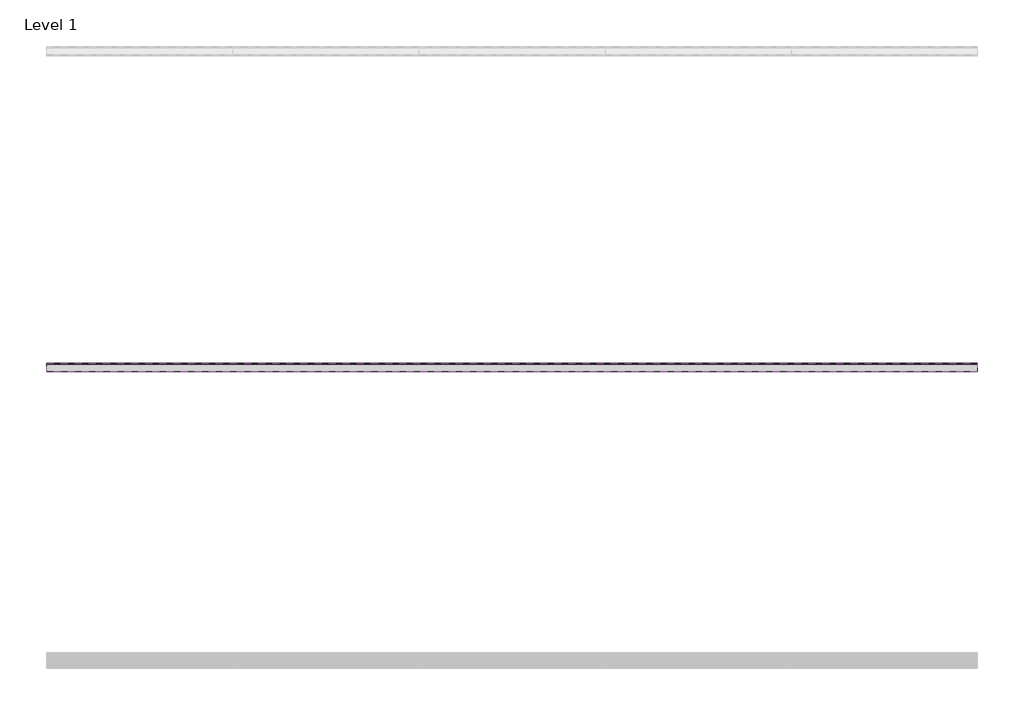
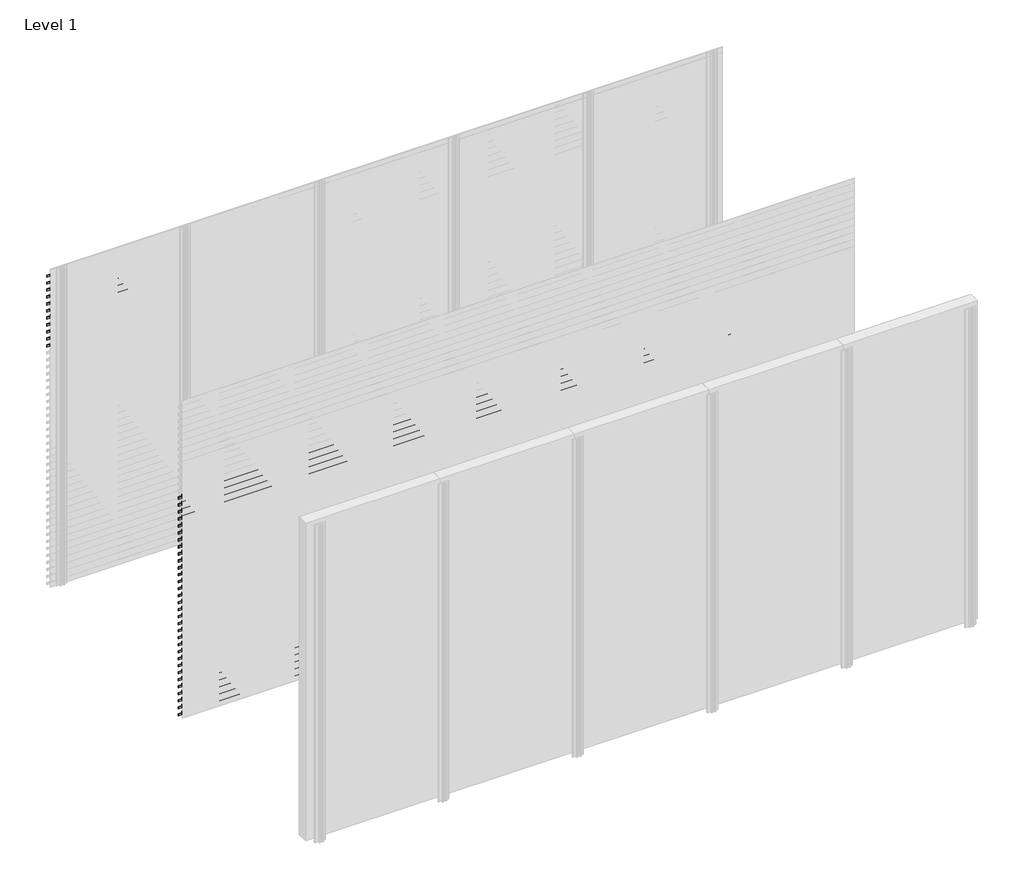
# One storey, part 19 of 540: 43 proxies.
"""IFC4 building model written with IfcOpenShell, lengths in millimetres."""

import ifcopenshell
import ifcopenshell.guid

model = None  # the IFC model being written
_history = None  # IfcOwnerHistory: only IFC2X3 demands one
_inside = {}  # id of a spatial element -> (the spatial element, [elements in it])
_under = {}  # id of a project, library or spatial element -> (it, [spatial elements below it])
_declared = {}  # id of a project -> (the project, [libraries it declares])
_typed = {}  # id of a type object -> (the type object, [elements of that type])
_made_of = {}  # id of a material, layer set ... -> (it, [elements and type objects made of it])


def new_model(schema):
    """Start an empty IFC model of exactly this schema.

    Asked for "IFC4X3", IfcOpenShell would pick the latest addendum, in which some entities
    have other attributes; the version numbers below select the first issue.
    IFC2X3 requires an IfcOwnerHistory on every rooted entity: one is made here for all.
    """
    global model, _history
    if schema == "IFC4X3":
        model = ifcopenshell.file(schema_version=(4, 3, 0, 0))
    else:
        model = ifcopenshell.file(schema=schema)
    _inside.clear()
    _under.clear()
    _declared.clear()
    _typed.clear()
    _made_of.clear()
    _history = None
    if model.schema == "IFC2X3":
        org = make("IfcOrganization", Name="unknown")
        user = make(
            "IfcPersonAndOrganization",
            ThePerson=make("IfcPerson", FamilyName="unknown"),
            TheOrganization=org,
        )
        app = make(
            "IfcApplication",
            ApplicationDeveloper=org,
            Version="unknown",
            ApplicationFullName="unknown",
            ApplicationIdentifier="unknown",
        )
        _history = make(
            "IfcOwnerHistory",
            OwningUser=user,
            OwningApplication=app,
            ChangeAction="ADDED",
            CreationDate=0,
        )
    return model


def make(cls, **values):
    """One entity of the class cls with the attributes given. An attribute that is None is left unset."""
    return model.create_entity(
        cls, **{name: value for name, value in values.items() if value is not None}
    )


def rooted(cls, **values):
    """An entity with a GlobalId (a new one), such as an element, a storey or a relation."""
    return make(cls, GlobalId=ifcopenshell.guid.new(), OwnerHistory=_history, **values)


def si_unit(unit_type, name, prefix=None):
    """IfcSIUnit, for example si_unit("LENGTHUNIT", "METRE", prefix="MILLI")."""
    return make("IfcSIUnit", UnitType=unit_type, Prefix=prefix, Name=name)


def assignment(units):
    """IfcUnitAssignment: the units of a project."""
    return None if units is None else make("IfcUnitAssignment", Units=units)


def point(xyz):
    """IfcCartesianPoint."""
    return None if xyz is None else make("IfcCartesianPoint", Coordinates=xyz)


def direction(xyz):
    """IfcDirection."""
    return None if xyz is None else make("IfcDirection", DirectionRatios=xyz)


def frame(location, z_axis=None, x_axis=None):
    """IfcAxis2Placement3D, a coordinate frame: its origin and axes. An axis left out is left unset."""
    return make(
        "IfcAxis2Placement3D",
        Location=point(location),
        Axis=direction(z_axis),
        RefDirection=direction(x_axis),
    )


def origin():
    """The frame at (0, 0, 0) with its axes left unset."""
    return frame((0.0, 0.0, 0.0))


def place(relative_to, where):
    """IfcLocalPlacement: puts the frame where relative to a parent placement (None: the world)."""
    return make(
        "IfcLocalPlacement", PlacementRelTo=relative_to, RelativePlacement=where
    )


def context(
    kind, dimensions, precision=None, world=None, true_north=None, identifier=None
):
    """IfcGeometricRepresentationContext, for example the 3D "Model" context."""
    return make(
        "IfcGeometricRepresentationContext",
        ContextIdentifier=identifier,
        ContextType=kind,
        CoordinateSpaceDimension=dimensions,
        Precision=precision,
        WorldCoordinateSystem=world,
        TrueNorth=true_north,
    )


def project(units=None, contexts=None):
    """IfcProject with its units and contexts."""
    return rooted(
        "IfcProject",
        Name="project",
        RepresentationContexts=contexts,
        UnitsInContext=assignment(units),
    )


def spatial(cls, under=None, at=None, **own):
    """A site, building, storey or space (cls), placed at a placement, below another one or the project."""
    s = rooted(cls, ObjectPlacement=at, **own)
    if under is not None:
        _under.setdefault(under.id(), (under, []))[1].append(s)
    return s


def faces_of(points, faces, orient=None, outer=None):
    """IfcFace entities. A face is a list of loops; a loop is a list of indices into points, from 0.

    orient and outer hold one flag for each loop. By default every Orientation is true, the
    first loop of a face is its IfcFaceOuterBound and the others are IfcFaceBound.
    """
    made = []
    for i, loops in enumerate(faces):
        bounds = []
        for j, loop in enumerate(loops):
            is_outer = j == 0 if outer is None else outer[i][j]
            bounds.append(
                make(
                    "IfcFaceOuterBound" if is_outer else "IfcFaceBound",
                    Bound=make("IfcPolyLoop", Polygon=[points[k] for k in loop]),
                    Orientation=True if orient is None else orient[i][j],
                )
            )
        made.append(make("IfcFace", Bounds=bounds))
    return made


def faceted_brep(points, faces, orient=None, outer=None, voids=None):
    """IfcFacetedBrep: a solid bounded by flat faces; with voids (closed shells), ...WithVoids."""
    shared = [point(p) for p in points]
    hull = make("IfcClosedShell", CfsFaces=faces_of(shared, faces, orient, outer))
    if voids is None:
        return make("IfcFacetedBrep", Outer=hull)
    return make(
        "IfcFacetedBrepWithVoids",
        Outer=hull,
        Voids=[
            make(cls, CfsFaces=faces_of(shared, fs, o, b)) for cls, fs, o, b in voids
        ],
    )


def shape(context_of_items, identifier, shape_type, items):
    """IfcShapeRepresentation: the items that make up one representation, for example the "Body"."""
    return make(
        "IfcShapeRepresentation",
        ContextOfItems=context_of_items,
        RepresentationIdentifier=identifier,
        RepresentationType=shape_type,
        Items=items,
    )


def made_of(thing, what):
    """Note that an element or type object is made of a material, layer set ...; save() writes the relation."""
    if what is not None:
        _made_of.setdefault(what.id(), (what, []))[1].append(thing)
    return thing


def element(
    cls,
    number,
    at=None,
    inside=None,
    cuts=None,
    type_object=None,
    material=None,
    context=None,
    identifier="Body",
    shape_type=None,
    held_by="IfcProductDefinitionShape",
    body=None,
    shapes=None,
    **own,
):
    """One element of the class cls, such as IfcWall. Its Tag is "e" and its number.

    at: its placement. inside: the storey or other place that contains it. cuts: it is an
    opening in that element (IfcRelVoidsElement). A single representation is given by context,
    identifier, shape_type and body (its items); several are given by shapes. held_by: the class
    of the entity that holds the representations. save() writes the other relations.
    """
    e = rooted(cls, Tag="e%d" % number, ObjectPlacement=at, **own)
    if body is not None:
        shapes = [shape(context, identifier, shape_type, body)]
    if shapes is not None:
        e.Representation = make(held_by, Representations=shapes)
    if inside is not None:
        _inside.setdefault(inside.id(), (inside, []))[1].append(e)
    if cuts is not None:
        rooted(
            "IfcRelVoidsElement", RelatingBuildingElement=cuts, RelatedOpeningElement=e
        )
    if type_object is not None:
        _typed.setdefault(type_object.id(), (type_object, []))[1].append(e)
    return made_of(e, material)


def aggregate(whole, parts):
    """IfcRelAggregates: a whole, such as a stair, and the parts it consists of."""
    return rooted("IfcRelAggregates", RelatingObject=whole, RelatedObjects=parts)


def save(model, path):
    """Write the relations noted so far, then the file.

    IfcRelAggregates (storeys below a building ...), IfcRelContainedInSpatialStructure (elements
    in a storey), IfcRelDefinesByType, IfcRelAssociatesMaterial and IfcRelDeclares: one each for
    every whole, place, type object, material and project.
    """
    for whole, parts in _under.values():
        aggregate(whole, parts)
    for where, things in _inside.values():
        rooted(
            "IfcRelContainedInSpatialStructure",
            RelatedElements=things,
            RelatingStructure=where,
        )
    for kind, things in _typed.values():
        rooted("IfcRelDefinesByType", RelatedObjects=things, RelatingType=kind)
    for what, things in _made_of.values():
        rooted("IfcRelAssociatesMaterial", RelatedObjects=things, RelatingMaterial=what)
    for by, libraries in _declared.values():
        rooted("IfcRelDeclares", RelatingContext=by, RelatedDefinitions=libraries)
    model.write(path)


model = new_model("IFC4")

# Units and contexts
model_context = context("Model", 3, world=origin())
ifc_project = project(units=[si_unit("LENGTHUNIT", "METRE", prefix="MILLI")], contexts=[model_context])

# Site, building, storey
site = spatial("IfcSite", under=ifc_project)
building = spatial("IfcBuilding", under=site)
storey = spatial("IfcBuildingStorey", under=building, Name="Level 1", Elevation=0.0)

# Proxies
placement = place(None, origin())
element("IfcBuildingElementProxy", 1, Name="Wall Sweeps", at=placement, inside=storey, context=model_context, shape_type="Brep", body=[
    faceted_brep([(6466.6208097, 5001.0270068, 2055.5), (6466.6208097, 4947.2770068, 2093.0285629), (6466.6208097, 4947.2770068, 2112.0), (6466.6208097, 4946.0270068, 2112.0), (6466.6208097, 4946.0270068, 2092.3158044), (6466.6208097, 4999.7770068, 2054.7872415), (6466.6208097, 4999.7770068, 2036.2216933), (6466.6208097, 5001.0270068, 2035.5), (466.6208097, 5001.0270068, 2055.5), (466.6208097, 5001.0270068, 2035.5), (466.6208097, 4999.7770068, 2036.2216933), (466.6208097, 4999.7770068, 2054.7872415), (466.6208097, 4946.0270068, 2092.3158044), (466.6208097, 4946.0270068, 2112.0), (466.6208097, 4947.2770068, 2112.0), (466.6208097, 4947.2770068, 2093.0285629)], [[[0, 1, 2, 3, 4, 5, 6, 7]], [[8, 9, 10, 11, 12, 13, 14, 15]], [[1, 0, 8, 15]], [[2, 1, 15, 14]], [[3, 2, 14, 13]], [[4, 3, 13, 12]], [[5, 4, 12, 11]], [[6, 5, 11, 10]], [[7, 6, 10, 9]], [[0, 7, 9, 8]]]),
])
element("IfcBuildingElementProxy", 2, Name="Wall Sweeps", at=placement, inside=storey, context=model_context, shape_type="Brep", body=[
    faceted_brep([(6466.6208097, 5001.0270068, 1989.5), (6466.6208097, 4947.2770068, 2027.0285629), (6466.6208097, 4947.2770068, 2046.0), (6466.6208097, 4946.0270068, 2046.0), (6466.6208097, 4946.0270068, 2026.3158044), (6466.6208097, 4999.7770068, 1988.7872415), (6466.6208097, 4999.7770068, 1970.2216933), (6466.6208097, 5001.0270068, 1969.5), (466.6208097, 5001.0270068, 1989.5), (466.6208097, 5001.0270068, 1969.5), (466.6208097, 4999.7770068, 1970.2216933), (466.6208097, 4999.7770068, 1988.7872415), (466.6208097, 4946.0270068, 2026.3158044), (466.6208097, 4946.0270068, 2046.0), (466.6208097, 4947.2770068, 2046.0), (466.6208097, 4947.2770068, 2027.0285629)], [[[0, 1, 2, 3, 4, 5, 6, 7]], [[8, 9, 10, 11, 12, 13, 14, 15]], [[1, 0, 8, 15]], [[2, 1, 15, 14]], [[3, 2, 14, 13]], [[4, 3, 13, 12]], [[5, 4, 12, 11]], [[6, 5, 11, 10]], [[7, 6, 10, 9]], [[0, 7, 9, 8]]]),
])
element("IfcBuildingElementProxy", 3, Name="Wall Sweeps", at=placement, inside=storey, context=model_context, shape_type="Brep", body=[
    faceted_brep([(6466.6208097, 5001.0270068, 1923.5), (6466.6208097, 4947.2770068, 1961.0285629), (6466.6208097, 4947.2770068, 1980.0), (6466.6208097, 4946.0270068, 1980.0), (6466.6208097, 4946.0270068, 1960.3158044), (6466.6208097, 4999.7770068, 1922.7872415), (6466.6208097, 4999.7770068, 1904.2216933), (6466.6208097, 5001.0270068, 1903.5), (466.6208097, 5001.0270068, 1923.5), (466.6208097, 5001.0270068, 1903.5), (466.6208097, 4999.7770068, 1904.2216933), (466.6208097, 4999.7770068, 1922.7872415), (466.6208097, 4946.0270068, 1960.3158044), (466.6208097, 4946.0270068, 1980.0), (466.6208097, 4947.2770068, 1980.0), (466.6208097, 4947.2770068, 1961.0285629)], [[[0, 1, 2, 3, 4, 5, 6, 7]], [[8, 9, 10, 11, 12, 13, 14, 15]], [[1, 0, 8, 15]], [[2, 1, 15, 14]], [[3, 2, 14, 13]], [[4, 3, 13, 12]], [[5, 4, 12, 11]], [[6, 5, 11, 10]], [[7, 6, 10, 9]], [[0, 7, 9, 8]]]),
])
element("IfcBuildingElementProxy", 4, Name="Wall Sweeps", at=placement, inside=storey, context=model_context, shape_type="Brep", body=[
    faceted_brep([(6466.6208097, 5001.0270068, 1857.5), (6466.6208097, 4947.2770068, 1895.0285629), (6466.6208097, 4947.2770068, 1914.0), (6466.6208097, 4946.0270068, 1914.0), (6466.6208097, 4946.0270068, 1894.3158044), (6466.6208097, 4999.7770068, 1856.7872415), (6466.6208097, 4999.7770068, 1838.2216933), (6466.6208097, 5001.0270068, 1837.5), (466.6208097, 5001.0270068, 1857.5), (466.6208097, 5001.0270068, 1837.5), (466.6208097, 4999.7770068, 1838.2216933), (466.6208097, 4999.7770068, 1856.7872415), (466.6208097, 4946.0270068, 1894.3158044), (466.6208097, 4946.0270068, 1914.0), (466.6208097, 4947.2770068, 1914.0), (466.6208097, 4947.2770068, 1895.0285629)], [[[0, 1, 2, 3, 4, 5, 6, 7]], [[8, 9, 10, 11, 12, 13, 14, 15]], [[1, 0, 8, 15]], [[2, 1, 15, 14]], [[3, 2, 14, 13]], [[4, 3, 13, 12]], [[5, 4, 12, 11]], [[6, 5, 11, 10]], [[7, 6, 10, 9]], [[0, 7, 9, 8]]]),
])
element("IfcBuildingElementProxy", 5, Name="Wall Sweeps", at=placement, inside=storey, context=model_context, shape_type="Brep", body=[
    faceted_brep([(6466.6208097, 5001.0270068, 1791.5), (6466.6208097, 4947.2770068, 1829.0285629), (6466.6208097, 4947.2770068, 1848.0), (6466.6208097, 4946.0270068, 1848.0), (6466.6208097, 4946.0270068, 1828.3158044), (6466.6208097, 4999.7770068, 1790.7872415), (6466.6208097, 4999.7770068, 1772.2216933), (6466.6208097, 5001.0270068, 1771.5), (466.6208097, 5001.0270068, 1791.5), (466.6208097, 5001.0270068, 1771.5), (466.6208097, 4999.7770068, 1772.2216933), (466.6208097, 4999.7770068, 1790.7872415), (466.6208097, 4946.0270068, 1828.3158044), (466.6208097, 4946.0270068, 1848.0), (466.6208097, 4947.2770068, 1848.0), (466.6208097, 4947.2770068, 1829.0285629)], [[[0, 1, 2, 3, 4, 5, 6, 7]], [[8, 9, 10, 11, 12, 13, 14, 15]], [[1, 0, 8, 15]], [[2, 1, 15, 14]], [[3, 2, 14, 13]], [[4, 3, 13, 12]], [[5, 4, 12, 11]], [[6, 5, 11, 10]], [[7, 6, 10, 9]], [[0, 7, 9, 8]]]),
])
element("IfcBuildingElementProxy", 6, Name="Wall Sweeps", at=placement, inside=storey, context=model_context, shape_type="Brep", body=[
    faceted_brep([(6466.6208097, 5001.0270068, 1725.5), (6466.6208097, 4947.2770068, 1763.0285629), (6466.6208097, 4947.2770068, 1782.0), (6466.6208097, 4946.0270068, 1782.0), (6466.6208097, 4946.0270068, 1762.3158044), (6466.6208097, 4999.7770068, 1724.7872415), (6466.6208097, 4999.7770068, 1706.2216933), (6466.6208097, 5001.0270068, 1705.5), (466.6208097, 5001.0270068, 1725.5), (466.6208097, 5001.0270068, 1705.5), (466.6208097, 4999.7770068, 1706.2216933), (466.6208097, 4999.7770068, 1724.7872415), (466.6208097, 4946.0270068, 1762.3158044), (466.6208097, 4946.0270068, 1782.0), (466.6208097, 4947.2770068, 1782.0), (466.6208097, 4947.2770068, 1763.0285629)], [[[0, 1, 2, 3, 4, 5, 6, 7]], [[8, 9, 10, 11, 12, 13, 14, 15]], [[1, 0, 8, 15]], [[2, 1, 15, 14]], [[3, 2, 14, 13]], [[4, 3, 13, 12]], [[5, 4, 12, 11]], [[6, 5, 11, 10]], [[7, 6, 10, 9]], [[0, 7, 9, 8]]]),
])
element("IfcBuildingElementProxy", 7, Name="Wall Sweeps", at=placement, inside=storey, context=model_context, shape_type="Brep", body=[
    faceted_brep([(6466.6208097, 5001.0270068, 1659.5), (6466.6208097, 4947.2770068, 1697.0285629), (6466.6208097, 4947.2770068, 1716.0), (6466.6208097, 4946.0270068, 1716.0), (6466.6208097, 4946.0270068, 1696.3158044), (6466.6208097, 4999.7770068, 1658.7872415), (6466.6208097, 4999.7770068, 1640.2216933), (6466.6208097, 5001.0270068, 1639.5), (466.6208097, 5001.0270068, 1659.5), (466.6208097, 5001.0270068, 1639.5), (466.6208097, 4999.7770068, 1640.2216933), (466.6208097, 4999.7770068, 1658.7872415), (466.6208097, 4946.0270068, 1696.3158044), (466.6208097, 4946.0270068, 1716.0), (466.6208097, 4947.2770068, 1716.0), (466.6208097, 4947.2770068, 1697.0285629)], [[[0, 1, 2, 3, 4, 5, 6, 7]], [[8, 9, 10, 11, 12, 13, 14, 15]], [[1, 0, 8, 15]], [[2, 1, 15, 14]], [[3, 2, 14, 13]], [[4, 3, 13, 12]], [[5, 4, 12, 11]], [[6, 5, 11, 10]], [[7, 6, 10, 9]], [[0, 7, 9, 8]]]),
])
element("IfcBuildingElementProxy", 8, Name="Wall Sweeps", at=placement, inside=storey, context=model_context, shape_type="Brep", body=[
    faceted_brep([(6466.6208097, 5001.0270068, 1593.5), (6466.6208097, 4947.2770068, 1631.0285629), (6466.6208097, 4947.2770068, 1650.0), (6466.6208097, 4946.0270068, 1650.0), (6466.6208097, 4946.0270068, 1630.3158044), (6466.6208097, 4999.7770068, 1592.7872415), (6466.6208097, 4999.7770068, 1574.2216933), (6466.6208097, 5001.0270068, 1573.5), (466.6208097, 5001.0270068, 1593.5), (466.6208097, 5001.0270068, 1573.5), (466.6208097, 4999.7770068, 1574.2216933), (466.6208097, 4999.7770068, 1592.7872415), (466.6208097, 4946.0270068, 1630.3158044), (466.6208097, 4946.0270068, 1650.0), (466.6208097, 4947.2770068, 1650.0), (466.6208097, 4947.2770068, 1631.0285629)], [[[0, 1, 2, 3, 4, 5, 6, 7]], [[8, 9, 10, 11, 12, 13, 14, 15]], [[1, 0, 8, 15]], [[2, 1, 15, 14]], [[3, 2, 14, 13]], [[4, 3, 13, 12]], [[5, 4, 12, 11]], [[6, 5, 11, 10]], [[7, 6, 10, 9]], [[0, 7, 9, 8]]]),
])
element("IfcBuildingElementProxy", 9, Name="Wall Sweeps", at=placement, inside=storey, context=model_context, shape_type="Brep", body=[
    faceted_brep([(6466.6208097, 5001.0270068, 1527.5), (6466.6208097, 4947.2770068, 1565.0285629), (6466.6208097, 4947.2770068, 1584.0), (6466.6208097, 4946.0270068, 1584.0), (6466.6208097, 4946.0270068, 1564.3158044), (6466.6208097, 4999.7770068, 1526.7872415), (6466.6208097, 4999.7770068, 1508.2216933), (6466.6208097, 5001.0270068, 1507.5), (466.6208097, 5001.0270068, 1527.5), (466.6208097, 5001.0270068, 1507.5), (466.6208097, 4999.7770068, 1508.2216933), (466.6208097, 4999.7770068, 1526.7872415), (466.6208097, 4946.0270068, 1564.3158044), (466.6208097, 4946.0270068, 1584.0), (466.6208097, 4947.2770068, 1584.0), (466.6208097, 4947.2770068, 1565.0285629)], [[[0, 1, 2, 3, 4, 5, 6, 7]], [[8, 9, 10, 11, 12, 13, 14, 15]], [[1, 0, 8, 15]], [[2, 1, 15, 14]], [[3, 2, 14, 13]], [[4, 3, 13, 12]], [[5, 4, 12, 11]], [[6, 5, 11, 10]], [[7, 6, 10, 9]], [[0, 7, 9, 8]]]),
])
element("IfcBuildingElementProxy", 10, Name="Wall Sweeps", at=placement, inside=storey, context=model_context, shape_type="Brep", body=[
    faceted_brep([(6466.6208097, 5001.0270068, 1461.5), (6466.6208097, 4947.2770068, 1499.0285629), (6466.6208097, 4947.2770068, 1518.0), (6466.6208097, 4946.0270068, 1518.0), (6466.6208097, 4946.0270068, 1498.3158044), (6466.6208097, 4999.7770068, 1460.7872415), (6466.6208097, 4999.7770068, 1442.2216933), (6466.6208097, 5001.0270068, 1441.5), (466.6208097, 5001.0270068, 1461.5), (466.6208097, 5001.0270068, 1441.5), (466.6208097, 4999.7770068, 1442.2216933), (466.6208097, 4999.7770068, 1460.7872415), (466.6208097, 4946.0270068, 1498.3158044), (466.6208097, 4946.0270068, 1518.0), (466.6208097, 4947.2770068, 1518.0), (466.6208097, 4947.2770068, 1499.0285629)], [[[0, 1, 2, 3, 4, 5, 6, 7]], [[8, 9, 10, 11, 12, 13, 14, 15]], [[1, 0, 8, 15]], [[2, 1, 15, 14]], [[3, 2, 14, 13]], [[4, 3, 13, 12]], [[5, 4, 12, 11]], [[6, 5, 11, 10]], [[7, 6, 10, 9]], [[0, 7, 9, 8]]]),
])
element("IfcBuildingElementProxy", 11, Name="Wall Sweeps", at=placement, inside=storey, context=model_context, shape_type="Brep", body=[
    faceted_brep([(6466.6208097, 5001.0270068, 1395.5), (6466.6208097, 4947.2770068, 1433.0285629), (6466.6208097, 4947.2770068, 1452.0), (6466.6208097, 4946.0270068, 1452.0), (6466.6208097, 4946.0270068, 1432.3158044), (6466.6208097, 4999.7770068, 1394.7872415), (6466.6208097, 4999.7770068, 1376.2216933), (6466.6208097, 5001.0270068, 1375.5), (466.6208097, 5001.0270068, 1395.5), (466.6208097, 5001.0270068, 1375.5), (466.6208097, 4999.7770068, 1376.2216933), (466.6208097, 4999.7770068, 1394.7872415), (466.6208097, 4946.0270068, 1432.3158044), (466.6208097, 4946.0270068, 1452.0), (466.6208097, 4947.2770068, 1452.0), (466.6208097, 4947.2770068, 1433.0285629)], [[[0, 1, 2, 3, 4, 5, 6, 7]], [[8, 9, 10, 11, 12, 13, 14, 15]], [[1, 0, 8, 15]], [[2, 1, 15, 14]], [[3, 2, 14, 13]], [[4, 3, 13, 12]], [[5, 4, 12, 11]], [[6, 5, 11, 10]], [[7, 6, 10, 9]], [[0, 7, 9, 8]]]),
])
element("IfcBuildingElementProxy", 12, Name="Wall Sweeps", at=placement, inside=storey, context=model_context, shape_type="Brep", body=[
    faceted_brep([(6466.6208097, 5001.0270068, 1329.5), (6466.6208097, 4947.2770068, 1367.0285629), (6466.6208097, 4947.2770068, 1386.0), (6466.6208097, 4946.0270068, 1386.0), (6466.6208097, 4946.0270068, 1366.3158044), (6466.6208097, 4999.7770068, 1328.7872415), (6466.6208097, 4999.7770068, 1310.2216933), (6466.6208097, 5001.0270068, 1309.5), (466.6208097, 5001.0270068, 1329.5), (466.6208097, 5001.0270068, 1309.5), (466.6208097, 4999.7770068, 1310.2216933), (466.6208097, 4999.7770068, 1328.7872415), (466.6208097, 4946.0270068, 1366.3158044), (466.6208097, 4946.0270068, 1386.0), (466.6208097, 4947.2770068, 1386.0), (466.6208097, 4947.2770068, 1367.0285629)], [[[0, 1, 2, 3, 4, 5, 6, 7]], [[8, 9, 10, 11, 12, 13, 14, 15]], [[1, 0, 8, 15]], [[2, 1, 15, 14]], [[3, 2, 14, 13]], [[4, 3, 13, 12]], [[5, 4, 12, 11]], [[6, 5, 11, 10]], [[7, 6, 10, 9]], [[0, 7, 9, 8]]]),
])
element("IfcBuildingElementProxy", 13, Name="Wall Sweeps", at=placement, inside=storey, context=model_context, shape_type="Brep", body=[
    faceted_brep([(6466.6208097, 5001.0270068, 1263.5), (6466.6208097, 4947.2770068, 1301.0285629), (6466.6208097, 4947.2770068, 1320.0), (6466.6208097, 4946.0270068, 1320.0), (6466.6208097, 4946.0270068, 1300.3158044), (6466.6208097, 4999.7770068, 1262.7872415), (6466.6208097, 4999.7770068, 1244.2216933), (6466.6208097, 5001.0270068, 1243.5), (466.6208097, 5001.0270068, 1263.5), (466.6208097, 5001.0270068, 1243.5), (466.6208097, 4999.7770068, 1244.2216933), (466.6208097, 4999.7770068, 1262.7872415), (466.6208097, 4946.0270068, 1300.3158044), (466.6208097, 4946.0270068, 1320.0), (466.6208097, 4947.2770068, 1320.0), (466.6208097, 4947.2770068, 1301.0285629)], [[[0, 1, 2, 3, 4, 5, 6, 7]], [[8, 9, 10, 11, 12, 13, 14, 15]], [[1, 0, 8, 15]], [[2, 1, 15, 14]], [[3, 2, 14, 13]], [[4, 3, 13, 12]], [[5, 4, 12, 11]], [[6, 5, 11, 10]], [[7, 6, 10, 9]], [[0, 7, 9, 8]]]),
])
element("IfcBuildingElementProxy", 14, Name="Wall Sweeps", at=placement, inside=storey, context=model_context, shape_type="Brep", body=[
    faceted_brep([(6466.6208097, 5001.0270068, 1197.5), (6466.6208097, 4947.2770068, 1235.0285629), (6466.6208097, 4947.2770068, 1254.0), (6466.6208097, 4946.0270068, 1254.0), (6466.6208097, 4946.0270068, 1234.3158044), (6466.6208097, 4999.7770068, 1196.7872415), (6466.6208097, 4999.7770068, 1178.2216933), (6466.6208097, 5001.0270068, 1177.5), (466.6208097, 5001.0270068, 1197.5), (466.6208097, 5001.0270068, 1177.5), (466.6208097, 4999.7770068, 1178.2216933), (466.6208097, 4999.7770068, 1196.7872415), (466.6208097, 4946.0270068, 1234.3158044), (466.6208097, 4946.0270068, 1254.0), (466.6208097, 4947.2770068, 1254.0), (466.6208097, 4947.2770068, 1235.0285629)], [[[0, 1, 2, 3, 4, 5, 6, 7]], [[8, 9, 10, 11, 12, 13, 14, 15]], [[1, 0, 8, 15]], [[2, 1, 15, 14]], [[3, 2, 14, 13]], [[4, 3, 13, 12]], [[5, 4, 12, 11]], [[6, 5, 11, 10]], [[7, 6, 10, 9]], [[0, 7, 9, 8]]]),
])
element("IfcBuildingElementProxy", 15, Name="Wall Sweeps", at=placement, inside=storey, context=model_context, shape_type="Brep", body=[
    faceted_brep([(6466.6208097, 5001.0270068, 1131.5), (6466.6208097, 4947.2770068, 1169.0285629), (6466.6208097, 4947.2770068, 1188.0), (6466.6208097, 4946.0270068, 1188.0), (6466.6208097, 4946.0270068, 1168.3158044), (6466.6208097, 4999.7770068, 1130.7872415), (6466.6208097, 4999.7770068, 1112.2216933), (6466.6208097, 5001.0270068, 1111.5), (466.6208097, 5001.0270068, 1131.5), (466.6208097, 5001.0270068, 1111.5), (466.6208097, 4999.7770068, 1112.2216933), (466.6208097, 4999.7770068, 1130.7872415), (466.6208097, 4946.0270068, 1168.3158044), (466.6208097, 4946.0270068, 1188.0), (466.6208097, 4947.2770068, 1188.0), (466.6208097, 4947.2770068, 1169.0285629)], [[[0, 1, 2, 3, 4, 5, 6, 7]], [[8, 9, 10, 11, 12, 13, 14, 15]], [[1, 0, 8, 15]], [[2, 1, 15, 14]], [[3, 2, 14, 13]], [[4, 3, 13, 12]], [[5, 4, 12, 11]], [[6, 5, 11, 10]], [[7, 6, 10, 9]], [[0, 7, 9, 8]]]),
])
element("IfcBuildingElementProxy", 16, Name="Wall Sweeps", at=placement, inside=storey, context=model_context, shape_type="Brep", body=[
    faceted_brep([(6466.6208097, 5001.0270068, 1065.5), (6466.6208097, 4947.2770068, 1103.0285629), (6466.6208097, 4947.2770068, 1122.0), (6466.6208097, 4946.0270068, 1122.0), (6466.6208097, 4946.0270068, 1102.3158044), (6466.6208097, 4999.7770068, 1064.7872415), (6466.6208097, 4999.7770068, 1046.2216933), (6466.6208097, 5001.0270068, 1045.5), (466.6208097, 5001.0270068, 1065.5), (466.6208097, 5001.0270068, 1045.5), (466.6208097, 4999.7770068, 1046.2216933), (466.6208097, 4999.7770068, 1064.7872415), (466.6208097, 4946.0270068, 1102.3158044), (466.6208097, 4946.0270068, 1122.0), (466.6208097, 4947.2770068, 1122.0), (466.6208097, 4947.2770068, 1103.0285629)], [[[0, 1, 2, 3, 4, 5, 6, 7]], [[8, 9, 10, 11, 12, 13, 14, 15]], [[1, 0, 8, 15]], [[2, 1, 15, 14]], [[3, 2, 14, 13]], [[4, 3, 13, 12]], [[5, 4, 12, 11]], [[6, 5, 11, 10]], [[7, 6, 10, 9]], [[0, 7, 9, 8]]]),
])
element("IfcBuildingElementProxy", 17, Name="Wall Sweeps", at=placement, inside=storey, context=model_context, shape_type="Brep", body=[
    faceted_brep([(6466.6208097, 5001.0270068, 999.5), (6466.6208097, 4947.2770068, 1037.0285629), (6466.6208097, 4947.2770068, 1056.0), (6466.6208097, 4946.0270068, 1056.0), (6466.6208097, 4946.0270068, 1036.3158044), (6466.6208097, 4999.7770068, 998.7872415), (6466.6208097, 4999.7770068, 980.2216933), (6466.6208097, 5001.0270068, 979.5), (466.6208097, 5001.0270068, 999.5), (466.6208097, 5001.0270068, 979.5), (466.6208097, 4999.7770068, 980.2216933), (466.6208097, 4999.7770068, 998.7872415), (466.6208097, 4946.0270068, 1036.3158044), (466.6208097, 4946.0270068, 1056.0), (466.6208097, 4947.2770068, 1056.0), (466.6208097, 4947.2770068, 1037.0285629)], [[[0, 1, 2, 3, 4, 5, 6, 7]], [[8, 9, 10, 11, 12, 13, 14, 15]], [[1, 0, 8, 15]], [[2, 1, 15, 14]], [[3, 2, 14, 13]], [[4, 3, 13, 12]], [[5, 4, 12, 11]], [[6, 5, 11, 10]], [[7, 6, 10, 9]], [[0, 7, 9, 8]]]),
])
element("IfcBuildingElementProxy", 18, Name="Wall Sweeps", at=placement, inside=storey, context=model_context, shape_type="Brep", body=[
    faceted_brep([(6466.6208097, 5001.0270068, 933.5), (6466.6208097, 4947.2770068, 971.0285629), (6466.6208097, 4947.2770068, 990.0), (6466.6208097, 4946.0270068, 990.0), (6466.6208097, 4946.0270068, 970.3158044), (6466.6208097, 4999.7770068, 932.7872415), (6466.6208097, 4999.7770068, 914.2216933), (6466.6208097, 5001.0270068, 913.5), (466.6208097, 5001.0270068, 933.5), (466.6208097, 5001.0270068, 913.5), (466.6208097, 4999.7770068, 914.2216933), (466.6208097, 4999.7770068, 932.7872415), (466.6208097, 4946.0270068, 970.3158044), (466.6208097, 4946.0270068, 990.0), (466.6208097, 4947.2770068, 990.0), (466.6208097, 4947.2770068, 971.0285629)], [[[0, 1, 2, 3, 4, 5, 6, 7]], [[8, 9, 10, 11, 12, 13, 14, 15]], [[1, 0, 8, 15]], [[2, 1, 15, 14]], [[3, 2, 14, 13]], [[4, 3, 13, 12]], [[5, 4, 12, 11]], [[6, 5, 11, 10]], [[7, 6, 10, 9]], [[0, 7, 9, 8]]]),
])
element("IfcBuildingElementProxy", 19, Name="Wall Sweeps", at=placement, inside=storey, context=model_context, shape_type="Brep", body=[
    faceted_brep([(6466.6208097, 5001.0270068, 867.5), (6466.6208097, 4947.2770068, 905.0285629), (6466.6208097, 4947.2770068, 924.0), (6466.6208097, 4946.0270068, 924.0), (6466.6208097, 4946.0270068, 904.3158044), (6466.6208097, 4999.7770068, 866.7872415), (6466.6208097, 4999.7770068, 848.2216933), (6466.6208097, 5001.0270068, 847.5), (466.6208097, 5001.0270068, 867.5), (466.6208097, 5001.0270068, 847.5), (466.6208097, 4999.7770068, 848.2216933), (466.6208097, 4999.7770068, 866.7872415), (466.6208097, 4946.0270068, 904.3158044), (466.6208097, 4946.0270068, 924.0), (466.6208097, 4947.2770068, 924.0), (466.6208097, 4947.2770068, 905.0285629)], [[[0, 1, 2, 3, 4, 5, 6, 7]], [[8, 9, 10, 11, 12, 13, 14, 15]], [[1, 0, 8, 15]], [[2, 1, 15, 14]], [[3, 2, 14, 13]], [[4, 3, 13, 12]], [[5, 4, 12, 11]], [[6, 5, 11, 10]], [[7, 6, 10, 9]], [[0, 7, 9, 8]]]),
])
element("IfcBuildingElementProxy", 20, Name="Wall Sweeps", at=placement, inside=storey, context=model_context, shape_type="Brep", body=[
    faceted_brep([(6466.6208097, 5001.0270068, 801.5), (6466.6208097, 4947.2770068, 839.0285629), (6466.6208097, 4947.2770068, 858.0), (6466.6208097, 4946.0270068, 858.0), (6466.6208097, 4946.0270068, 838.3158044), (6466.6208097, 4999.7770068, 800.7872415), (6466.6208097, 4999.7770068, 782.2216933), (6466.6208097, 5001.0270068, 781.5), (466.6208097, 5001.0270068, 801.5), (466.6208097, 5001.0270068, 781.5), (466.6208097, 4999.7770068, 782.2216933), (466.6208097, 4999.7770068, 800.7872415), (466.6208097, 4946.0270068, 838.3158044), (466.6208097, 4946.0270068, 858.0), (466.6208097, 4947.2770068, 858.0), (466.6208097, 4947.2770068, 839.0285629)], [[[0, 1, 2, 3, 4, 5, 6, 7]], [[8, 9, 10, 11, 12, 13, 14, 15]], [[1, 0, 8, 15]], [[2, 1, 15, 14]], [[3, 2, 14, 13]], [[4, 3, 13, 12]], [[5, 4, 12, 11]], [[6, 5, 11, 10]], [[7, 6, 10, 9]], [[0, 7, 9, 8]]]),
])
element("IfcBuildingElementProxy", 21, Name="Wall Sweeps", at=placement, inside=storey, context=model_context, shape_type="Brep", body=[
    faceted_brep([(6466.6208097, 5001.0270068, 735.5), (6466.6208097, 4947.2770068, 773.0285629), (6466.6208097, 4947.2770068, 792.0), (6466.6208097, 4946.0270068, 792.0), (6466.6208097, 4946.0270068, 772.3158044), (6466.6208097, 4999.7770068, 734.7872415), (6466.6208097, 4999.7770068, 716.2216933), (6466.6208097, 5001.0270068, 715.5), (466.6208097, 5001.0270068, 735.5), (466.6208097, 5001.0270068, 715.5), (466.6208097, 4999.7770068, 716.2216933), (466.6208097, 4999.7770068, 734.7872415), (466.6208097, 4946.0270068, 772.3158044), (466.6208097, 4946.0270068, 792.0), (466.6208097, 4947.2770068, 792.0), (466.6208097, 4947.2770068, 773.0285629)], [[[0, 1, 2, 3, 4, 5, 6, 7]], [[8, 9, 10, 11, 12, 13, 14, 15]], [[1, 0, 8, 15]], [[2, 1, 15, 14]], [[3, 2, 14, 13]], [[4, 3, 13, 12]], [[5, 4, 12, 11]], [[6, 5, 11, 10]], [[7, 6, 10, 9]], [[0, 7, 9, 8]]]),
])
element("IfcBuildingElementProxy", 22, Name="Wall Sweeps", at=placement, inside=storey, context=model_context, shape_type="Brep", body=[
    faceted_brep([(6466.6208097, 5001.0270068, 669.5), (6466.6208097, 4947.2770068, 707.0285629), (6466.6208097, 4947.2770068, 726.0), (6466.6208097, 4946.0270068, 726.0), (6466.6208097, 4946.0270068, 706.3158044), (6466.6208097, 4999.7770068, 668.7872415), (6466.6208097, 4999.7770068, 650.2216933), (6466.6208097, 5001.0270068, 649.5), (466.6208097, 5001.0270068, 669.5), (466.6208097, 5001.0270068, 649.5), (466.6208097, 4999.7770068, 650.2216933), (466.6208097, 4999.7770068, 668.7872415), (466.6208097, 4946.0270068, 706.3158044), (466.6208097, 4946.0270068, 726.0), (466.6208097, 4947.2770068, 726.0), (466.6208097, 4947.2770068, 707.0285629)], [[[0, 1, 2, 3, 4, 5, 6, 7]], [[8, 9, 10, 11, 12, 13, 14, 15]], [[1, 0, 8, 15]], [[2, 1, 15, 14]], [[3, 2, 14, 13]], [[4, 3, 13, 12]], [[5, 4, 12, 11]], [[6, 5, 11, 10]], [[7, 6, 10, 9]], [[0, 7, 9, 8]]]),
])
element("IfcBuildingElementProxy", 23, Name="Wall Sweeps", at=placement, inside=storey, context=model_context, shape_type="Brep", body=[
    faceted_brep([(6466.6208097, 5001.0270068, 603.5), (6466.6208097, 4947.2770068, 641.0285629), (6466.6208097, 4947.2770068, 660.0), (6466.6208097, 4946.0270068, 660.0), (6466.6208097, 4946.0270068, 640.3158044), (6466.6208097, 4999.7770068, 602.7872415), (6466.6208097, 4999.7770068, 584.2216933), (6466.6208097, 5001.0270068, 583.5), (466.6208097, 5001.0270068, 603.5), (466.6208097, 5001.0270068, 583.5), (466.6208097, 4999.7770068, 584.2216933), (466.6208097, 4999.7770068, 602.7872415), (466.6208097, 4946.0270068, 640.3158044), (466.6208097, 4946.0270068, 660.0), (466.6208097, 4947.2770068, 660.0), (466.6208097, 4947.2770068, 641.0285629)], [[[0, 1, 2, 3, 4, 5, 6, 7]], [[8, 9, 10, 11, 12, 13, 14, 15]], [[1, 0, 8, 15]], [[2, 1, 15, 14]], [[3, 2, 14, 13]], [[4, 3, 13, 12]], [[5, 4, 12, 11]], [[6, 5, 11, 10]], [[7, 6, 10, 9]], [[0, 7, 9, 8]]]),
])
element("IfcBuildingElementProxy", 24, Name="Wall Sweeps", at=placement, inside=storey, context=model_context, shape_type="Brep", body=[
    faceted_brep([(6466.6208097, 5001.0270068, 537.5), (6466.6208097, 4947.2770068, 575.0285629), (6466.6208097, 4947.2770068, 594.0), (6466.6208097, 4946.0270068, 594.0), (6466.6208097, 4946.0270068, 574.3158044), (6466.6208097, 4999.7770068, 536.7872415), (6466.6208097, 4999.7770068, 518.2216933), (6466.6208097, 5001.0270068, 517.5), (466.6208097, 5001.0270068, 537.5), (466.6208097, 5001.0270068, 517.5), (466.6208097, 4999.7770068, 518.2216933), (466.6208097, 4999.7770068, 536.7872415), (466.6208097, 4946.0270068, 574.3158044), (466.6208097, 4946.0270068, 594.0), (466.6208097, 4947.2770068, 594.0), (466.6208097, 4947.2770068, 575.0285629)], [[[0, 1, 2, 3, 4, 5, 6, 7]], [[8, 9, 10, 11, 12, 13, 14, 15]], [[1, 0, 8, 15]], [[2, 1, 15, 14]], [[3, 2, 14, 13]], [[4, 3, 13, 12]], [[5, 4, 12, 11]], [[6, 5, 11, 10]], [[7, 6, 10, 9]], [[0, 7, 9, 8]]]),
])
element("IfcBuildingElementProxy", 25, Name="Wall Sweeps", at=placement, inside=storey, context=model_context, shape_type="Brep", body=[
    faceted_brep([(6466.6208097, 5001.0270068, 471.5), (6466.6208097, 4947.2770068, 509.0285629), (6466.6208097, 4947.2770068, 528.0), (6466.6208097, 4946.0270068, 528.0), (6466.6208097, 4946.0270068, 508.3158044), (6466.6208097, 4999.7770068, 470.7872415), (6466.6208097, 4999.7770068, 452.2216933), (6466.6208097, 5001.0270068, 451.5), (466.6208097, 5001.0270068, 471.5), (466.6208097, 5001.0270068, 451.5), (466.6208097, 4999.7770068, 452.2216933), (466.6208097, 4999.7770068, 470.7872415), (466.6208097, 4946.0270068, 508.3158044), (466.6208097, 4946.0270068, 528.0), (466.6208097, 4947.2770068, 528.0), (466.6208097, 4947.2770068, 509.0285629)], [[[0, 1, 2, 3, 4, 5, 6, 7]], [[8, 9, 10, 11, 12, 13, 14, 15]], [[1, 0, 8, 15]], [[2, 1, 15, 14]], [[3, 2, 14, 13]], [[4, 3, 13, 12]], [[5, 4, 12, 11]], [[6, 5, 11, 10]], [[7, 6, 10, 9]], [[0, 7, 9, 8]]]),
])
element("IfcBuildingElementProxy", 26, Name="Wall Sweeps", at=placement, inside=storey, context=model_context, shape_type="Brep", body=[
    faceted_brep([(6466.6208097, 5001.0270068, 405.5), (6466.6208097, 4947.2770068, 443.0285629), (6466.6208097, 4947.2770068, 462.0), (6466.6208097, 4946.0270068, 462.0), (6466.6208097, 4946.0270068, 442.3158044), (6466.6208097, 4999.7770068, 404.7872415), (6466.6208097, 4999.7770068, 386.2216933), (6466.6208097, 5001.0270068, 385.5), (466.6208097, 5001.0270068, 405.5), (466.6208097, 5001.0270068, 385.5), (466.6208097, 4999.7770068, 386.2216933), (466.6208097, 4999.7770068, 404.7872415), (466.6208097, 4946.0270068, 442.3158044), (466.6208097, 4946.0270068, 462.0), (466.6208097, 4947.2770068, 462.0), (466.6208097, 4947.2770068, 443.0285629)], [[[0, 1, 2, 3, 4, 5, 6, 7]], [[8, 9, 10, 11, 12, 13, 14, 15]], [[1, 0, 8, 15]], [[2, 1, 15, 14]], [[3, 2, 14, 13]], [[4, 3, 13, 12]], [[5, 4, 12, 11]], [[6, 5, 11, 10]], [[7, 6, 10, 9]], [[0, 7, 9, 8]]]),
])
element("IfcBuildingElementProxy", 27, Name="Wall Sweeps", at=placement, inside=storey, context=model_context, shape_type="Brep", body=[
    faceted_brep([(6466.6208097, 5001.0270068, 339.5), (6466.6208097, 4947.2770068, 377.0285629), (6466.6208097, 4947.2770068, 396.0), (6466.6208097, 4946.0270068, 396.0), (6466.6208097, 4946.0270068, 376.3158044), (6466.6208097, 4999.7770068, 338.7872415), (6466.6208097, 4999.7770068, 320.2216933), (6466.6208097, 5001.0270068, 319.5), (466.6208097, 5001.0270068, 339.5), (466.6208097, 5001.0270068, 319.5), (466.6208097, 4999.7770068, 320.2216933), (466.6208097, 4999.7770068, 338.7872415), (466.6208097, 4946.0270068, 376.3158044), (466.6208097, 4946.0270068, 396.0), (466.6208097, 4947.2770068, 396.0), (466.6208097, 4947.2770068, 377.0285629)], [[[0, 1, 2, 3, 4, 5, 6, 7]], [[8, 9, 10, 11, 12, 13, 14, 15]], [[1, 0, 8, 15]], [[2, 1, 15, 14]], [[3, 2, 14, 13]], [[4, 3, 13, 12]], [[5, 4, 12, 11]], [[6, 5, 11, 10]], [[7, 6, 10, 9]], [[0, 7, 9, 8]]]),
])
element("IfcBuildingElementProxy", 28, Name="Wall Sweeps", at=placement, inside=storey, context=model_context, shape_type="Brep", body=[
    faceted_brep([(6466.6208097, 5001.0270068, 273.5), (6466.6208097, 4947.2770068, 311.0285629), (6466.6208097, 4947.2770068, 330.0), (6466.6208097, 4946.0270068, 330.0), (6466.6208097, 4946.0270068, 310.3158044), (6466.6208097, 4999.7770068, 272.7872415), (6466.6208097, 4999.7770068, 254.2216933), (6466.6208097, 5001.0270068, 253.5), (466.6208097, 5001.0270068, 273.5), (466.6208097, 5001.0270068, 253.5), (466.6208097, 4999.7770068, 254.2216933), (466.6208097, 4999.7770068, 272.7872415), (466.6208097, 4946.0270068, 310.3158044), (466.6208097, 4946.0270068, 330.0), (466.6208097, 4947.2770068, 330.0), (466.6208097, 4947.2770068, 311.0285629)], [[[0, 1, 2, 3, 4, 5, 6, 7]], [[8, 9, 10, 11, 12, 13, 14, 15]], [[1, 0, 8, 15]], [[2, 1, 15, 14]], [[3, 2, 14, 13]], [[4, 3, 13, 12]], [[5, 4, 12, 11]], [[6, 5, 11, 10]], [[7, 6, 10, 9]], [[0, 7, 9, 8]]]),
])
element("IfcBuildingElementProxy", 29, Name="Wall Sweeps", at=placement, inside=storey, context=model_context, shape_type="Brep", body=[
    faceted_brep([(6466.6208097, 5001.0270068, 207.5), (6466.6208097, 4947.2770068, 245.0285629), (6466.6208097, 4947.2770068, 264.0), (6466.6208097, 4946.0270068, 264.0), (6466.6208097, 4946.0270068, 244.3158044), (6466.6208097, 4999.7770068, 206.7872415), (6466.6208097, 4999.7770068, 188.2216933), (6466.6208097, 5001.0270068, 187.5), (466.6208097, 5001.0270068, 207.5), (466.6208097, 5001.0270068, 187.5), (466.6208097, 4999.7770068, 188.2216933), (466.6208097, 4999.7770068, 206.7872415), (466.6208097, 4946.0270068, 244.3158044), (466.6208097, 4946.0270068, 264.0), (466.6208097, 4947.2770068, 264.0), (466.6208097, 4947.2770068, 245.0285629)], [[[0, 1, 2, 3, 4, 5, 6, 7]], [[8, 9, 10, 11, 12, 13, 14, 15]], [[1, 0, 8, 15]], [[2, 1, 15, 14]], [[3, 2, 14, 13]], [[4, 3, 13, 12]], [[5, 4, 12, 11]], [[6, 5, 11, 10]], [[7, 6, 10, 9]], [[0, 7, 9, 8]]]),
])
element("IfcBuildingElementProxy", 30, Name="Wall Sweeps", at=placement, inside=storey, context=model_context, shape_type="Brep", body=[
    faceted_brep([(6466.6208097, 5001.0270068, 141.5), (6466.6208097, 4947.2770068, 179.0285629), (6466.6208097, 4947.2770068, 198.0), (6466.6208097, 4946.0270068, 198.0), (6466.6208097, 4946.0270068, 178.3158044), (6466.6208097, 4999.7770068, 140.7872415), (6466.6208097, 4999.7770068, 122.2216933), (6466.6208097, 5001.0270068, 121.5), (466.6208097, 5001.0270068, 141.5), (466.6208097, 5001.0270068, 121.5), (466.6208097, 4999.7770068, 122.2216933), (466.6208097, 4999.7770068, 140.7872415), (466.6208097, 4946.0270068, 178.3158044), (466.6208097, 4946.0270068, 198.0), (466.6208097, 4947.2770068, 198.0), (466.6208097, 4947.2770068, 179.0285629)], [[[0, 1, 2, 3, 4, 5, 6, 7]], [[8, 9, 10, 11, 12, 13, 14, 15]], [[1, 0, 8, 15]], [[2, 1, 15, 14]], [[3, 2, 14, 13]], [[4, 3, 13, 12]], [[5, 4, 12, 11]], [[6, 5, 11, 10]], [[7, 6, 10, 9]], [[0, 7, 9, 8]]]),
])
element("IfcBuildingElementProxy", 31, Name="Wall Sweeps", at=placement, inside=storey, context=model_context, shape_type="Brep", body=[
    faceted_brep([(6466.6208097, 5001.0270068, 75.5), (6466.6208097, 4947.2770068, 113.0285629), (6466.6208097, 4947.2770068, 132.0), (6466.6208097, 4946.0270068, 132.0), (6466.6208097, 4946.0270068, 112.3158044), (6466.6208097, 4999.7770068, 74.7872415), (6466.6208097, 4999.7770068, 56.2216933), (6466.6208097, 5001.0270068, 55.5), (466.6208097, 5001.0270068, 75.5), (466.6208097, 5001.0270068, 55.5), (466.6208097, 4999.7770068, 56.2216933), (466.6208097, 4999.7770068, 74.7872415), (466.6208097, 4946.0270068, 112.3158044), (466.6208097, 4946.0270068, 132.0), (466.6208097, 4947.2770068, 132.0), (466.6208097, 4947.2770068, 113.0285629)], [[[0, 1, 2, 3, 4, 5, 6, 7]], [[8, 9, 10, 11, 12, 13, 14, 15]], [[1, 0, 8, 15]], [[2, 1, 15, 14]], [[3, 2, 14, 13]], [[4, 3, 13, 12]], [[5, 4, 12, 11]], [[6, 5, 11, 10]], [[7, 6, 10, 9]], [[0, 7, 9, 8]]]),
])
element("IfcBuildingElementProxy", 32, Name="Wall Sweeps", at=placement, inside=storey, context=model_context, shape_type="Brep", body=[
    faceted_brep([(6466.6208097, 5001.0270068, 9.5), (6466.6208097, 4947.2770068, 47.0285629), (6466.6208097, 4947.2770068, 66.0), (6466.6208097, 4946.0270068, 66.0), (6466.6208097, 4946.0270068, 46.3158044), (6466.6208097, 4999.7770068, 8.7872415), (6466.6208097, 4999.7770068, -9.7783067), (6466.6208097, 5001.0270068, -10.5), (466.6208097, 5001.0270068, 9.5), (466.6208097, 5001.0270068, -10.5), (466.6208097, 4999.7770068, -9.7783067), (466.6208097, 4999.7770068, 8.7872415), (466.6208097, 4946.0270068, 46.3158044), (466.6208097, 4946.0270068, 66.0), (466.6208097, 4947.2770068, 66.0), (466.6208097, 4947.2770068, 47.0285629)], [[[0, 1, 2, 3, 4, 5, 6, 7]], [[8, 9, 10, 11, 12, 13, 14, 15]], [[1, 0, 8, 15]], [[2, 1, 15, 14]], [[3, 2, 14, 13]], [[4, 3, 13, 12]], [[5, 4, 12, 11]], [[6, 5, 11, 10]], [[7, 6, 10, 9]], [[0, 7, 9, 8]]]),
])
element("IfcBuildingElementProxy", 33, Name="Wall Sweeps", at=placement, inside=storey, context=model_context, shape_type="Brep", body=[
    faceted_brep([(1666.6208097, 7042.0270068, 2913.5), (1666.6208097, 6988.2770068, 2951.0285629), (1666.6208097, 6988.2770068, 2970.0), (1666.6208097, 6987.0270068, 2970.0), (1666.6208097, 6987.0270068, 2950.3158044), (1666.6208097, 7040.7770068, 2912.7872415), (1666.6208097, 7040.7770068, 2894.2216933), (1666.6208097, 7042.0270068, 2893.5), (466.6208097, 7042.0270068, 2913.5), (466.6208097, 7042.0270068, 2893.5), (466.6208097, 7040.7770068, 2894.2216933), (466.6208097, 7040.7770068, 2912.7872415), (466.6208097, 6987.0270068, 2950.3158044), (466.6208097, 6987.0270068, 2970.0), (466.6208097, 6988.2770068, 2970.0), (466.6208097, 6988.2770068, 2951.0285629)], [[[0, 1, 2, 3, 4, 5, 6, 7]], [[8, 9, 10, 11, 12, 13, 14, 15]], [[1, 0, 8, 15]], [[2, 1, 15, 14]], [[4, 3, 13, 12]], [[6, 5, 11, 10]], [[7, 6, 10, 9]], [[0, 7, 9, 8]], [[3, 2, 14, 13]], [[5, 4, 12, 11]]]),
])
element("IfcBuildingElementProxy", 34, Name="Wall Sweeps", at=placement, inside=storey, context=model_context, shape_type="Brep", body=[
    faceted_brep([(1666.6208097, 7042.0270068, 2847.5), (1666.6208097, 6988.2770068, 2885.0285629), (1666.6208097, 6988.2770068, 2904.0), (1666.6208097, 6987.0270068, 2904.0), (1666.6208097, 6987.0270068, 2884.3158044), (1666.6208097, 7040.7770068, 2846.7872415), (1666.6208097, 7040.7770068, 2828.2216933), (1666.6208097, 7042.0270068, 2827.5), (466.6208097, 7042.0270068, 2847.5), (466.6208097, 7042.0270068, 2827.5), (466.6208097, 7040.7770068, 2828.2216933), (466.6208097, 7040.7770068, 2846.7872415), (466.6208097, 6987.0270068, 2884.3158044), (466.6208097, 6987.0270068, 2904.0), (466.6208097, 6988.2770068, 2904.0), (466.6208097, 6988.2770068, 2885.0285629)], [[[0, 1, 2, 3, 4, 5, 6, 7]], [[8, 9, 10, 11, 12, 13, 14, 15]], [[1, 0, 8, 15]], [[2, 1, 15, 14]], [[4, 3, 13, 12]], [[6, 5, 11, 10]], [[7, 6, 10, 9]], [[0, 7, 9, 8]], [[3, 2, 14, 13]], [[5, 4, 12, 11]]]),
])
element("IfcBuildingElementProxy", 35, Name="Wall Sweeps", at=placement, inside=storey, context=model_context, shape_type="Brep", body=[
    faceted_brep([(1666.6208097, 7042.0270068, 2781.5), (1666.6208097, 6988.2770068, 2819.0285629), (1666.6208097, 6988.2770068, 2838.0), (1666.6208097, 6987.0270068, 2838.0), (1666.6208097, 6987.0270068, 2818.3158044), (1666.6208097, 7040.7770068, 2780.7872415), (1666.6208097, 7040.7770068, 2762.2216933), (1666.6208097, 7042.0270068, 2761.5), (466.6208097, 7042.0270068, 2781.5), (466.6208097, 7042.0270068, 2761.5), (466.6208097, 7040.7770068, 2762.2216933), (466.6208097, 7040.7770068, 2780.7872415), (466.6208097, 6987.0270068, 2818.3158044), (466.6208097, 6987.0270068, 2838.0), (466.6208097, 6988.2770068, 2838.0), (466.6208097, 6988.2770068, 2819.0285629)], [[[0, 1, 2, 3, 4, 5, 6, 7]], [[8, 9, 10, 11, 12, 13, 14, 15]], [[1, 0, 8, 15]], [[2, 1, 15, 14]], [[4, 3, 13, 12]], [[6, 5, 11, 10]], [[7, 6, 10, 9]], [[0, 7, 9, 8]], [[3, 2, 14, 13]], [[5, 4, 12, 11]]]),
])
element("IfcBuildingElementProxy", 36, Name="Wall Sweeps", at=placement, inside=storey, context=model_context, shape_type="Brep", body=[
    faceted_brep([(1666.6208097, 7042.0270068, 2715.5), (1666.6208097, 6988.2770068, 2753.0285629), (1666.6208097, 6988.2770068, 2772.0), (1666.6208097, 6987.0270068, 2772.0), (1666.6208097, 6987.0270068, 2752.3158044), (1666.6208097, 7040.7770068, 2714.7872415), (1666.6208097, 7040.7770068, 2696.2216933), (1666.6208097, 7042.0270068, 2695.5), (466.6208097, 7042.0270068, 2715.5), (466.6208097, 7042.0270068, 2695.5), (466.6208097, 7040.7770068, 2696.2216933), (466.6208097, 7040.7770068, 2714.7872415), (466.6208097, 6987.0270068, 2752.3158044), (466.6208097, 6987.0270068, 2772.0), (466.6208097, 6988.2770068, 2772.0), (466.6208097, 6988.2770068, 2753.0285629)], [[[0, 1, 2, 3, 4, 5, 6, 7]], [[8, 9, 10, 11, 12, 13, 14, 15]], [[1, 0, 8, 15]], [[2, 1, 15, 14]], [[4, 3, 13, 12]], [[6, 5, 11, 10]], [[7, 6, 10, 9]], [[0, 7, 9, 8]], [[3, 2, 14, 13]], [[5, 4, 12, 11]]]),
])
element("IfcBuildingElementProxy", 37, Name="Wall Sweeps", at=placement, inside=storey, context=model_context, shape_type="Brep", body=[
    faceted_brep([(1666.6208097, 7042.0270068, 2649.5), (1666.6208097, 6988.2770068, 2687.0285629), (1666.6208097, 6988.2770068, 2706.0), (1666.6208097, 6987.0270068, 2706.0), (1666.6208097, 6987.0270068, 2686.3158044), (1666.6208097, 7040.7770068, 2648.7872415), (1666.6208097, 7040.7770068, 2630.2216933), (1666.6208097, 7042.0270068, 2629.5), (466.6208097, 7042.0270068, 2649.5), (466.6208097, 7042.0270068, 2629.5), (466.6208097, 7040.7770068, 2630.2216933), (466.6208097, 7040.7770068, 2648.7872415), (466.6208097, 6987.0270068, 2686.3158044), (466.6208097, 6987.0270068, 2706.0), (466.6208097, 6988.2770068, 2706.0), (466.6208097, 6988.2770068, 2687.0285629)], [[[0, 1, 2, 3, 4, 5, 6, 7]], [[8, 9, 10, 11, 12, 13, 14, 15]], [[1, 0, 8, 15]], [[2, 1, 15, 14]], [[4, 3, 13, 12]], [[6, 5, 11, 10]], [[7, 6, 10, 9]], [[0, 7, 9, 8]], [[3, 2, 14, 13]], [[5, 4, 12, 11]]]),
])
element("IfcBuildingElementProxy", 38, Name="Wall Sweeps", at=placement, inside=storey, context=model_context, shape_type="Brep", body=[
    faceted_brep([(1666.6208097, 7042.0270068, 2583.5), (1666.6208097, 6988.2770068, 2621.0285629), (1666.6208097, 6988.2770068, 2640.0), (1666.6208097, 6987.0270068, 2640.0), (1666.6208097, 6987.0270068, 2620.3158044), (1666.6208097, 7040.7770068, 2582.7872415), (1666.6208097, 7040.7770068, 2564.2216933), (1666.6208097, 7042.0270068, 2563.5), (466.6208097, 7042.0270068, 2583.5), (466.6208097, 7042.0270068, 2563.5), (466.6208097, 7040.7770068, 2564.2216933), (466.6208097, 7040.7770068, 2582.7872415), (466.6208097, 6987.0270068, 2620.3158044), (466.6208097, 6987.0270068, 2640.0), (466.6208097, 6988.2770068, 2640.0), (466.6208097, 6988.2770068, 2621.0285629)], [[[0, 1, 2, 3, 4, 5, 6, 7]], [[8, 9, 10, 11, 12, 13, 14, 15]], [[1, 0, 8, 15]], [[2, 1, 15, 14]], [[4, 3, 13, 12]], [[6, 5, 11, 10]], [[7, 6, 10, 9]], [[0, 7, 9, 8]], [[3, 2, 14, 13]], [[5, 4, 12, 11]]]),
])
element("IfcBuildingElementProxy", 39, Name="Wall Sweeps", at=placement, inside=storey, context=model_context, shape_type="Brep", body=[
    faceted_brep([(1666.6208097, 7042.0270068, 2517.5), (1666.6208097, 6988.2770068, 2555.0285629), (1666.6208097, 6988.2770068, 2574.0), (1666.6208097, 6987.0270068, 2574.0), (1666.6208097, 6987.0270068, 2554.3158044), (1666.6208097, 7040.7770068, 2516.7872415), (1666.6208097, 7040.7770068, 2498.2216933), (1666.6208097, 7042.0270068, 2497.5), (466.6208097, 7042.0270068, 2517.5), (466.6208097, 7042.0270068, 2497.5), (466.6208097, 7040.7770068, 2498.2216933), (466.6208097, 7040.7770068, 2516.7872415), (466.6208097, 6987.0270068, 2554.3158044), (466.6208097, 6987.0270068, 2574.0), (466.6208097, 6988.2770068, 2574.0), (466.6208097, 6988.2770068, 2555.0285629)], [[[0, 1, 2, 3, 4, 5, 6, 7]], [[8, 9, 10, 11, 12, 13, 14, 15]], [[1, 0, 8, 15]], [[2, 1, 15, 14]], [[4, 3, 13, 12]], [[6, 5, 11, 10]], [[7, 6, 10, 9]], [[0, 7, 9, 8]], [[3, 2, 14, 13]], [[5, 4, 12, 11]]]),
])
element("IfcBuildingElementProxy", 40, Name="Wall Sweeps", at=placement, inside=storey, context=model_context, shape_type="Brep", body=[
    faceted_brep([(1666.6208097, 7042.0270068, 2451.5), (1666.6208097, 6988.2770068, 2489.0285629), (1666.6208097, 6988.2770068, 2508.0), (1666.6208097, 6987.0270068, 2508.0), (1666.6208097, 6987.0270068, 2488.3158044), (1666.6208097, 7040.7770068, 2450.7872415), (1666.6208097, 7040.7770068, 2432.2216933), (1666.6208097, 7042.0270068, 2431.5), (466.6208097, 7042.0270068, 2451.5), (466.6208097, 7042.0270068, 2431.5), (466.6208097, 7040.7770068, 2432.2216933), (466.6208097, 7040.7770068, 2450.7872415), (466.6208097, 6987.0270068, 2488.3158044), (466.6208097, 6987.0270068, 2508.0), (466.6208097, 6988.2770068, 2508.0), (466.6208097, 6988.2770068, 2489.0285629)], [[[0, 1, 2, 3, 4, 5, 6, 7]], [[8, 9, 10, 11, 12, 13, 14, 15]], [[1, 0, 8, 15]], [[2, 1, 15, 14]], [[4, 3, 13, 12]], [[6, 5, 11, 10]], [[7, 6, 10, 9]], [[0, 7, 9, 8]], [[3, 2, 14, 13]], [[5, 4, 12, 11]]]),
])
element("IfcBuildingElementProxy", 41, Name="Wall Sweeps", at=placement, inside=storey, context=model_context, shape_type="Brep", body=[
    faceted_brep([(1666.6208097, 7042.0270068, 2385.5), (1666.6208097, 6988.2770068, 2423.0285629), (1666.6208097, 6988.2770068, 2442.0), (1666.6208097, 6987.0270068, 2442.0), (1666.6208097, 6987.0270068, 2422.3158044), (1666.6208097, 7040.7770068, 2384.7872415), (1666.6208097, 7040.7770068, 2366.2216933), (1666.6208097, 7042.0270068, 2365.5), (466.6208097, 7042.0270068, 2385.5), (466.6208097, 7042.0270068, 2365.5), (466.6208097, 7040.7770068, 2366.2216933), (466.6208097, 7040.7770068, 2384.7872415), (466.6208097, 6987.0270068, 2422.3158044), (466.6208097, 6987.0270068, 2442.0), (466.6208097, 6988.2770068, 2442.0), (466.6208097, 6988.2770068, 2423.0285629)], [[[0, 1, 2, 3, 4, 5, 6, 7]], [[8, 9, 10, 11, 12, 13, 14, 15]], [[1, 0, 8, 15]], [[2, 1, 15, 14]], [[4, 3, 13, 12]], [[6, 5, 11, 10]], [[7, 6, 10, 9]], [[0, 7, 9, 8]], [[3, 2, 14, 13]], [[5, 4, 12, 11]]]),
])
element("IfcBuildingElementProxy", 42, Name="Wall Sweeps", at=placement, inside=storey, context=model_context, shape_type="Brep", body=[
    faceted_brep([(1666.6208097, 7042.0270068, 2319.5), (1666.6208097, 6988.2770068, 2357.0285629), (1666.6208097, 6988.2770068, 2376.0), (1666.6208097, 6987.0270068, 2376.0), (1666.6208097, 6987.0270068, 2356.3158044), (1666.6208097, 7040.7770068, 2318.7872415), (1666.6208097, 7040.7770068, 2300.2216933), (1666.6208097, 7042.0270068, 2299.5), (466.6208097, 7042.0270068, 2319.5), (466.6208097, 7042.0270068, 2299.5), (466.6208097, 7040.7770068, 2300.2216933), (466.6208097, 7040.7770068, 2318.7872415), (466.6208097, 6987.0270068, 2356.3158044), (466.6208097, 6987.0270068, 2376.0), (466.6208097, 6988.2770068, 2376.0), (466.6208097, 6988.2770068, 2357.0285629)], [[[0, 1, 2, 3, 4, 5, 6, 7]], [[8, 9, 10, 11, 12, 13, 14, 15]], [[1, 0, 8, 15]], [[2, 1, 15, 14]], [[4, 3, 13, 12]], [[6, 5, 11, 10]], [[7, 6, 10, 9]], [[0, 7, 9, 8]], [[3, 2, 14, 13]], [[5, 4, 12, 11]]]),
])
element("IfcBuildingElementProxy", 43, Name="Wall Sweeps", at=placement, inside=storey, context=model_context, shape_type="Brep", body=[
    faceted_brep([(1666.6208097, 7042.0270068, 2253.5), (1666.6208097, 6988.2770068, 2291.0285629), (1666.6208097, 6988.2770068, 2310.0), (1666.6208097, 6987.0270068, 2310.0), (1666.6208097, 6987.0270068, 2290.3158044), (1666.6208097, 7040.7770068, 2252.7872415), (1666.6208097, 7040.7770068, 2234.2216933), (1666.6208097, 7042.0270068, 2233.5), (466.6208097, 7042.0270068, 2253.5), (466.6208097, 7042.0270068, 2233.5), (466.6208097, 7040.7770068, 2234.2216933), (466.6208097, 7040.7770068, 2252.7872415), (466.6208097, 6987.0270068, 2290.3158044), (466.6208097, 6987.0270068, 2310.0), (466.6208097, 6988.2770068, 2310.0), (466.6208097, 6988.2770068, 2291.0285629)], [[[0, 1, 2, 3, 4, 5, 6, 7]], [[8, 9, 10, 11, 12, 13, 14, 15]], [[1, 0, 8, 15]], [[2, 1, 15, 14]], [[4, 3, 13, 12]], [[6, 5, 11, 10]], [[7, 6, 10, 9]], [[0, 7, 9, 8]], [[3, 2, 14, 13]], [[5, 4, 12, 11]]]),
])

save(model, "model.ifc")
